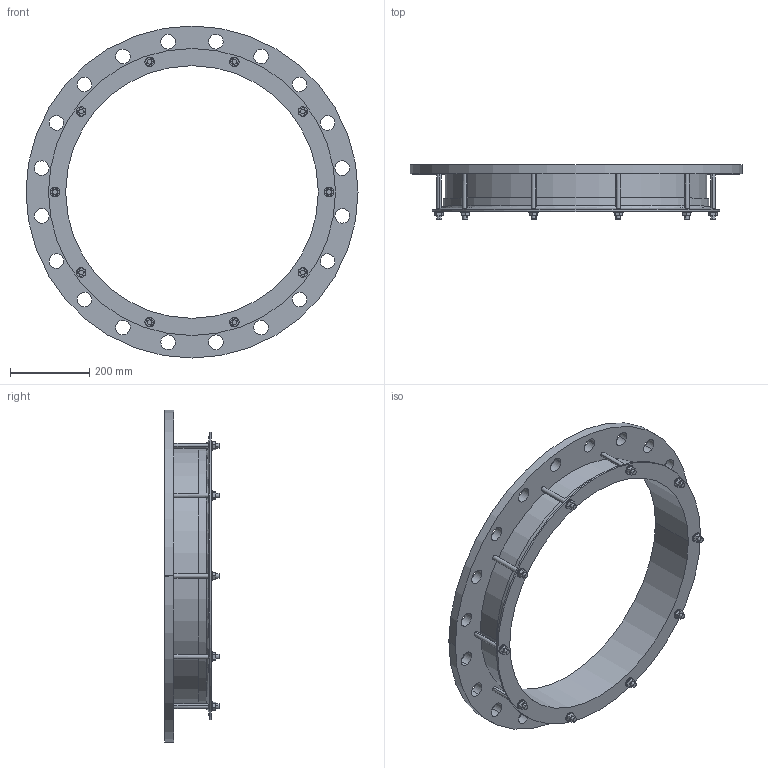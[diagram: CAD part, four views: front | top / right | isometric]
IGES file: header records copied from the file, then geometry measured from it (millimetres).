
Start section:  PTC IGES file: 635x600pn16.igs
Global section: file name: 635x600pn16.igs; native system: Creo Parametric by PTC Inc.; preprocessor: 2016130; author: mfairey; organization: Unknown; date: 20190116.141349; units: millimetre
Bounding box: 840 x 137.45 x 840 mm (x, y, z)
Surface area: 1142192.5 mm2 (no closed solid volume)
Topology: 0 solids, 0 shells, 208 faces, 1096 edges, 1096 vertices
Faces by surface type: revolution 114, bspline 94
